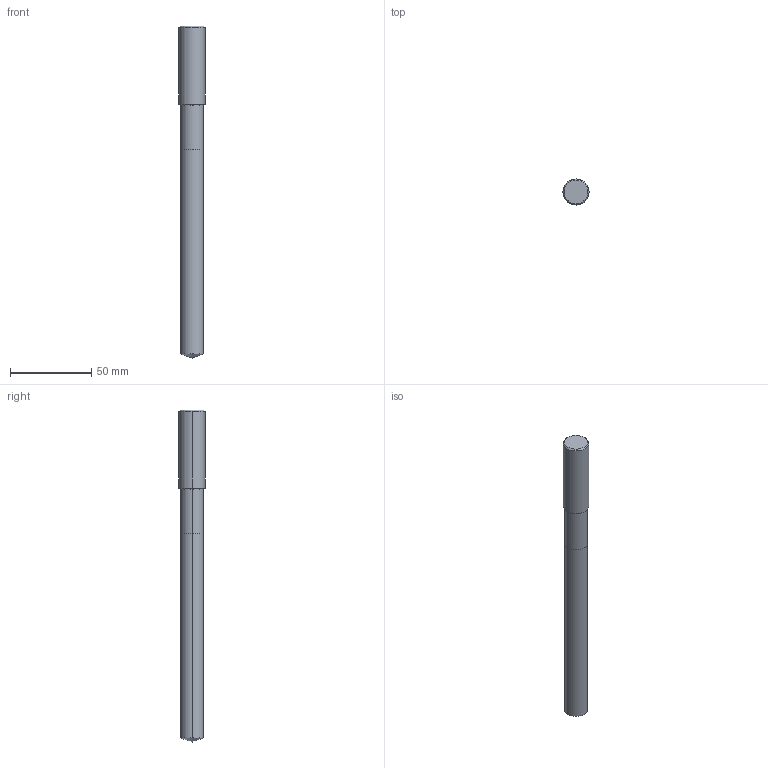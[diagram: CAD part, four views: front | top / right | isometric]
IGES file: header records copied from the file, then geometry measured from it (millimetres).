
Start section: 3D InterOp IGES (v. 2020 1.0.1), Spatial Corp. Copyright (c) 1999-2017.
Global section: file name: WZB12225_14.1.igs; native system: Spatial Corp.; preprocessor: 3D InterOp GENERIC/IGES 3.0; author: Noname; organization: Noname; date: 20201104.104746; units: metre
Bounding box: 16 x 16 x 204 mm (x, y, z)
Surface area: 9578.1 mm2 (no closed solid volume)
Topology: 0 solids, 0 shells, 14 faces, 54 edges, 52 vertices
Faces by surface type: revolution 12, extrusion 2
